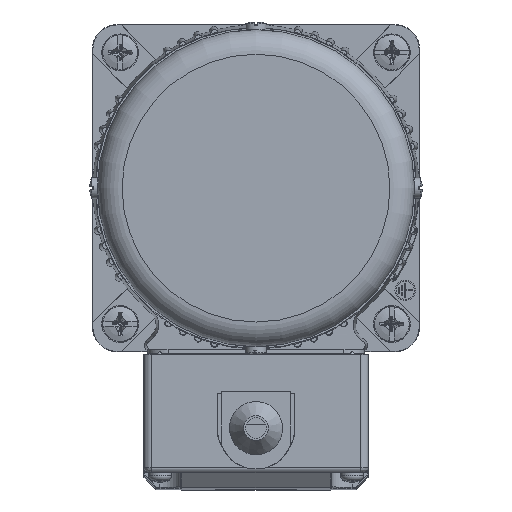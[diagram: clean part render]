
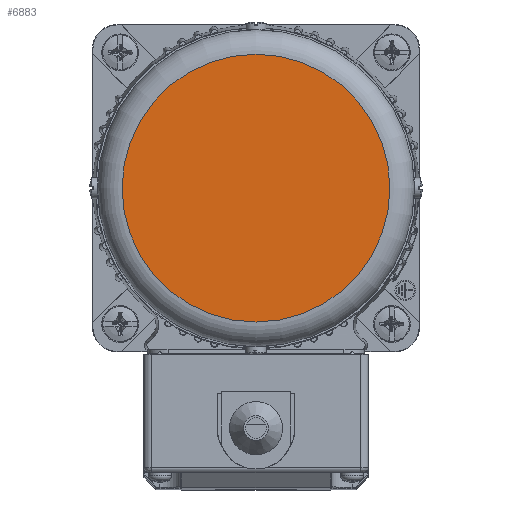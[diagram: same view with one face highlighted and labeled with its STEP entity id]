
A CAD part, left-side view. The second image highlights one B-rep face of the part: STEP entity #6883.
In plain terms, the highlighted planar face has unit normal (-1, 0, 0).
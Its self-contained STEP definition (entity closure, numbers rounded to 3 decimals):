
#2963=PLANE('',#28305);
#6883=ADVANCED_FACE('',(#8787),#2963,.F.);
#8787=FACE_OUTER_BOUND('',#10426,.T.);
#10426=EDGE_LOOP('',(#14266));
#14266=ORIENTED_EDGE('',*,*,#23625,.F.);
#20573=VERTEX_POINT('',#41983);
#23625=EDGE_CURVE('',#20573,#20573,#26806,.T.);
#26806=CIRCLE('',#28304,32.75);
#28304=AXIS2_PLACEMENT_3D('',#41982,#31826,#31827);
#28305=AXIS2_PLACEMENT_3D('',#41984,#31828,#31829);
#31826=DIRECTION('',(1.,0.,0.));
#31827=DIRECTION('',(0.,0.,-1.));
#31828=DIRECTION('',(1.,0.,0.));
#31829=DIRECTION('',(0.,0.,-1.));
#41982=CARTESIAN_POINT('',(-127.5,40.,40.));
#41983=CARTESIAN_POINT('',(-127.5,40.,7.25));
#41984=CARTESIAN_POINT('',(-127.5,40.,40.));
